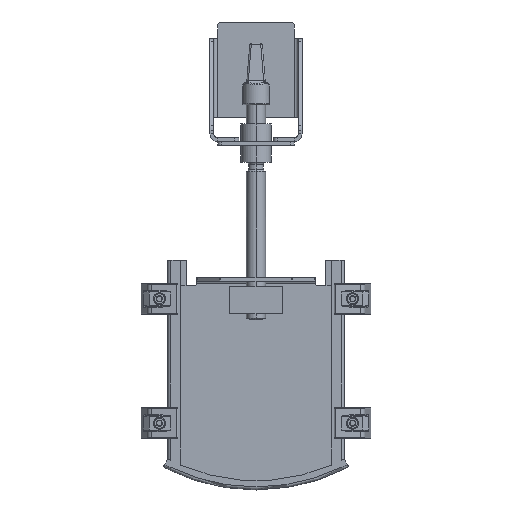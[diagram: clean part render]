
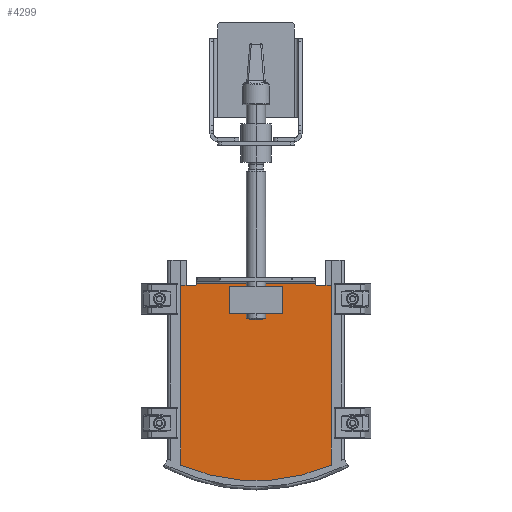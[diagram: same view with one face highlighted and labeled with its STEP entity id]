
A CAD part, top view. The second image highlights one B-rep face of the part: STEP entity #4299.
In plain terms, the highlighted planar face has unit normal (0, 0, 1).
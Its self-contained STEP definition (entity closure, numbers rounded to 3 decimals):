
#90 = VERTEX_POINT ( 'NONE', #26900 ) ;
#474 = LINE ( 'NONE', #26165, #33780 ) ;
#717 = VECTOR ( 'NONE', #17088, 1000. ) ;
#755 = LINE ( 'NONE', #21884, #17439 ) ;
#1081 = CIRCLE ( 'NONE', #29337, 2. ) ;
#1513 = DIRECTION ( 'NONE',  ( 0., 0., -1. ) ) ;
#1881 = DIRECTION ( 'NONE',  ( -1., 0., 0. ) ) ;
#2573 = EDGE_CURVE ( 'NONE', #15796, #9673, #29037, .T. ) ;
#2719 = VERTEX_POINT ( 'NONE', #10781 ) ;
#3367 = CARTESIAN_POINT ( 'NONE',  ( -34., 217.5, 33. ) ) ;
#3810 = ORIENTED_EDGE ( 'NONE', *, *, #5795, .T. ) ;
#4299 = ADVANCED_FACE ( 'NONE', ( #24465, #13401 ), #23952, .T. ) ;
#4861 = AXIS2_PLACEMENT_3D ( 'NONE', #11989, #30067, #27959 ) ;
#4935 = CIRCLE ( 'NONE', #33212, 2. ) ;
#5350 = DIRECTION ( 'NONE',  ( 1., 0., 0. ) ) ;
#5398 = VERTEX_POINT ( 'NONE', #6982 ) ;
#5795 = EDGE_CURVE ( 'NONE', #2719, #6580, #24226, .T. ) ;
#6342 = VECTOR ( 'NONE', #32334, 1000. ) ;
#6494 = CARTESIAN_POINT ( 'NONE',  ( -34., 217.5, 33. ) ) ;
#6580 = VERTEX_POINT ( 'NONE', #23157 ) ;
#6758 = LINE ( 'NONE', #33699, #12981 ) ;
#6982 = CARTESIAN_POINT ( 'NONE',  ( -77., 257., 33. ) ) ;
#8288 = EDGE_CURVE ( 'NONE', #90, #19802, #4935, .T. ) ;
#8574 = CARTESIAN_POINT ( 'NONE',  ( 0., 245., 33. ) ) ;
#9494 = VERTEX_POINT ( 'NONE', #6494 ) ;
#9673 = VERTEX_POINT ( 'NONE', #26963 ) ;
#9707 = DIRECTION ( 'NONE',  ( 0., -1., 0. ) ) ;
#10781 = CARTESIAN_POINT ( 'NONE',  ( -79., 255., 33. ) ) ;
#11144 = CARTESIAN_POINT ( 'NONE',  ( 34., 252.5, 33. ) ) ;
#11378 = VECTOR ( 'NONE', #23311, 1000. ) ;
#11429 = CARTESIAN_POINT ( 'NONE',  ( -79., 257., 33. ) ) ;
#11859 = CARTESIAN_POINT ( 'NONE',  ( 98.172, 255., 33. ) ) ;
#11989 = CARTESIAN_POINT ( 'NONE',  ( -105., 25.856, 33. ) ) ;
#12019 = DIRECTION ( 'NONE',  ( -1., 0., 0. ) ) ;
#12072 = DIRECTION ( 'NONE',  ( 1., 0., 0. ) ) ;
#12248 = CARTESIAN_POINT ( 'NONE',  ( 98., 25.856, 33. ) ) ;
#12836 = EDGE_CURVE ( 'NONE', #27955, #33210, #19515, .T. ) ;
#12981 = VECTOR ( 'NONE', #9707, 1000. ) ;
#13295 = ORIENTED_EDGE ( 'NONE', *, *, #20968, .T. ) ;
#13401 = FACE_BOUND ( 'NONE', #19927, .T. ) ;
#14076 = VECTOR ( 'NONE', #1881, 1000. ) ;
#14454 = ORIENTED_EDGE ( 'NONE', *, *, #17014, .F. ) ;
#15365 = LINE ( 'NONE', #12248, #11378 ) ;
#15796 = VERTEX_POINT ( 'NONE', #21244 ) ;
#16116 = EDGE_CURVE ( 'NONE', #25693, #27955, #24659, .T. ) ;
#16557 = ORIENTED_EDGE ( 'NONE', *, *, #12836, .F. ) ;
#16942 = EDGE_LOOP ( 'NONE', ( #27096, #13295, #30951, #24100, #25764, #3810, #14454, #23597 ) ) ;
#17014 = EDGE_CURVE ( 'NONE', #15796, #6580, #755, .T. ) ;
#17061 = DIRECTION ( 'NONE',  ( 1., 0., 0. ) ) ;
#17088 = DIRECTION ( 'NONE',  ( -1., 0., 0. ) ) ;
#17439 = VECTOR ( 'NONE', #32502, 1000. ) ;
#17520 = EDGE_CURVE ( 'NONE', #19071, #9673, #15365, .T. ) ;
#18422 = VECTOR ( 'NONE', #32332, 1000. ) ;
#18945 = CARTESIAN_POINT ( 'NONE',  ( 34., 217.5, 33. ) ) ;
#19054 = CARTESIAN_POINT ( 'NONE',  ( 34., 252.5, 33. ) ) ;
#19071 = VERTEX_POINT ( 'NONE', #33844 ) ;
#19149 = DIRECTION ( 'NONE',  ( 0., 0., 1. ) ) ;
#19515 = LINE ( 'NONE', #22256, #717 ) ;
#19802 = VERTEX_POINT ( 'NONE', #27960 ) ;
#19877 = CARTESIAN_POINT ( 'NONE',  ( 79., 257., 33. ) ) ;
#19927 = EDGE_LOOP ( 'NONE', ( #23405, #34280, #16557, #29405 ) ) ;
#20328 = LINE ( 'NONE', #11859, #23774 ) ;
#20772 = EDGE_CURVE ( 'NONE', #5398, #2719, #1081, .T. ) ;
#20968 = EDGE_CURVE ( 'NONE', #19071, #90, #20328, .T. ) ;
#21244 = CARTESIAN_POINT ( 'NONE',  ( -98., 20.454, 33. ) ) ;
#21707 = LINE ( 'NONE', #3367, #6342 ) ;
#21884 = CARTESIAN_POINT ( 'NONE',  ( -98., 25.856, 33. ) ) ;
#22256 = CARTESIAN_POINT ( 'NONE',  ( -34., 252.5, 33. ) ) ;
#22626 = CARTESIAN_POINT ( 'NONE',  ( -98.172, 255., 33. ) ) ;
#23157 = CARTESIAN_POINT ( 'NONE',  ( -98., 255., 33. ) ) ;
#23311 = DIRECTION ( 'NONE',  ( 0., -1., 0. ) ) ;
#23405 = ORIENTED_EDGE ( 'NONE', *, *, #25661, .F. ) ;
#23597 = ORIENTED_EDGE ( 'NONE', *, *, #2573, .T. ) ;
#23774 = VECTOR ( 'NONE', #12019, 1000. ) ;
#23952 = PLANE ( 'NONE',  #4861 ) ;
#24100 = ORIENTED_EDGE ( 'NONE', *, *, #29039, .F. ) ;
#24226 = LINE ( 'NONE', #22626, #14076 ) ;
#24465 = FACE_OUTER_BOUND ( 'NONE', #16942, .T. ) ;
#24659 = LINE ( 'NONE', #11144, #18422 ) ;
#25661 = EDGE_CURVE ( 'NONE', #9494, #25693, #21707, .T. ) ;
#25693 = VERTEX_POINT ( 'NONE', #18945 ) ;
#25764 = ORIENTED_EDGE ( 'NONE', *, *, #20772, .T. ) ;
#26165 = CARTESIAN_POINT ( 'NONE',  ( -105., 257., 33. ) ) ;
#26792 = AXIS2_PLACEMENT_3D ( 'NONE', #8574, #19149, #17061 ) ;
#26900 = CARTESIAN_POINT ( 'NONE',  ( 79., 255., 33. ) ) ;
#26963 = CARTESIAN_POINT ( 'NONE',  ( 98., 20.454, 33. ) ) ;
#27096 = ORIENTED_EDGE ( 'NONE', *, *, #17520, .F. ) ;
#27955 = VERTEX_POINT ( 'NONE', #19054 ) ;
#27959 = DIRECTION ( 'NONE',  ( 1., 0., 0. ) ) ;
#27960 = CARTESIAN_POINT ( 'NONE',  ( 77., 257., 33. ) ) ;
#29037 = CIRCLE ( 'NONE', #26792, 245. ) ;
#29039 = EDGE_CURVE ( 'NONE', #5398, #19802, #474, .T. ) ;
#29337 = AXIS2_PLACEMENT_3D ( 'NONE', #11429, #32281, #32612 ) ;
#29405 = ORIENTED_EDGE ( 'NONE', *, *, #16116, .F. ) ;
#30067 = DIRECTION ( 'NONE',  ( 0., 0., 1. ) ) ;
#30951 = ORIENTED_EDGE ( 'NONE', *, *, #8288, .T. ) ;
#30958 = CARTESIAN_POINT ( 'NONE',  ( -34., 252.5, 33. ) ) ;
#32281 = DIRECTION ( 'NONE',  ( 0., 0., -1. ) ) ;
#32332 = DIRECTION ( 'NONE',  ( 0., 1., 0. ) ) ;
#32334 = DIRECTION ( 'NONE',  ( 1., 0., 0. ) ) ;
#32502 = DIRECTION ( 'NONE',  ( 0., 1., 0. ) ) ;
#32612 = DIRECTION ( 'NONE',  ( 1., 0., 0. ) ) ;
#33210 = VERTEX_POINT ( 'NONE', #30958 ) ;
#33212 = AXIS2_PLACEMENT_3D ( 'NONE', #19877, #1513, #12072 ) ;
#33699 = CARTESIAN_POINT ( 'NONE',  ( -34., 252.5, 33. ) ) ;
#33714 = EDGE_CURVE ( 'NONE', #33210, #9494, #6758, .T. ) ;
#33780 = VECTOR ( 'NONE', #5350, 1000. ) ;
#33844 = CARTESIAN_POINT ( 'NONE',  ( 98., 255., 33. ) ) ;
#34280 = ORIENTED_EDGE ( 'NONE', *, *, #33714, .F. ) ;
